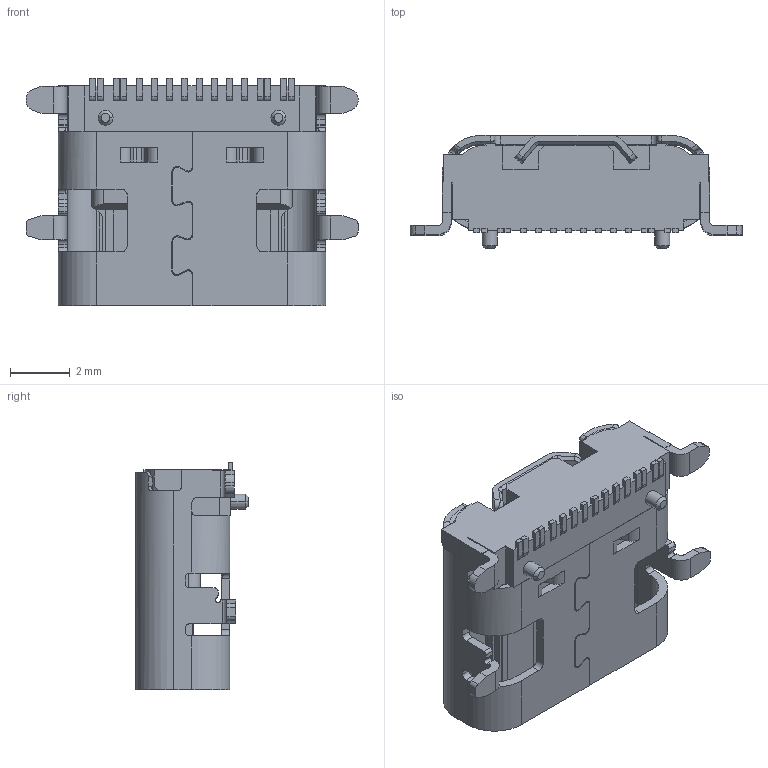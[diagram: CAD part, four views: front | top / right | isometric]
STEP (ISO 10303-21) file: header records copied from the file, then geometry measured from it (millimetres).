
FILE_DESCRIPTION((''),'2;1');
FILE_NAME('TYPEC-6P','2023-12-05T',('WYH'),(''),'PRO/ENGINEER BY PARAMETRIC TECHNOLOGY CORPORATION, 2013040','PRO/ENGINEER BY PARAMETRIC TECHNOLOGY CORPORATION, 2013040','');
FILE_SCHEMA(('CONFIG_CONTROL_DESIGN'));
Length unit declared in the file: millimetre
Products named in the file (1): TYPEC-6P
Bounding box: 11.1 x 3.78 x 7.6 mm (x, y, z)
Volume: 115 mm3; surface area: 472.6 mm2
Topology: 1 solids, 2 shells, 726 faces, 2133 edges, 1381 vertices
Faces by surface type: plane 513, cylinder 185, cone 22, bspline 6
Entity records: 24486 total; most frequent: CARTESIAN_POINT 4960, ORIENTED_EDGE 4266, DIRECTION 3860, EDGE_CURVE 2133, VECTOR 1678, LINE 1678, VERTEX_POINT 1381, AXIS2_PLACEMENT_3D 1091
